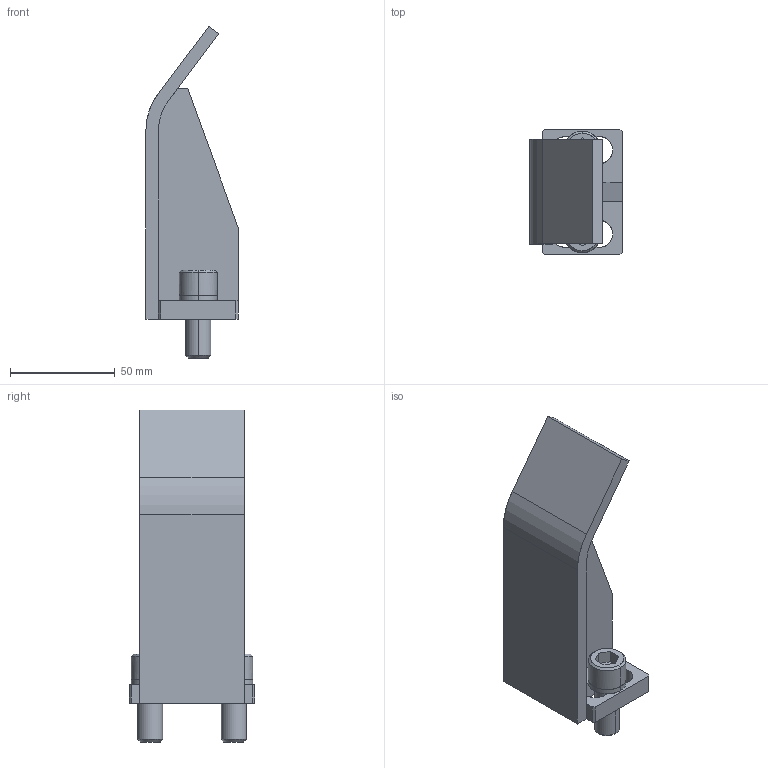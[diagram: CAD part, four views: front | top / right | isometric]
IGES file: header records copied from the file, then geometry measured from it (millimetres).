
Global section: file name: E:\UnigraphicsGraphicData\MISUMI_PRESS-PARTS\IGES\3d_nstfa-100-m12_01624_r00.igs; native system: NX V5.0; preprocessor: UGS NX IGES V5.0; author: MISUMI; date: 20110105.162127; units: millimetre
Bounding box: 44 x 60 x 158.5 mm (x, y, z)
Surface area: 34095.8 mm2 (no closed solid volume)
Topology: 0 solids, 0 shells, 83 faces, 516 edges, 516 vertices
Faces by surface type: bspline 83
